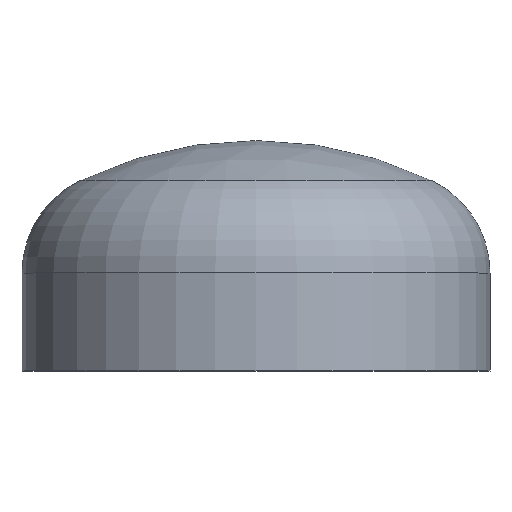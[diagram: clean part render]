
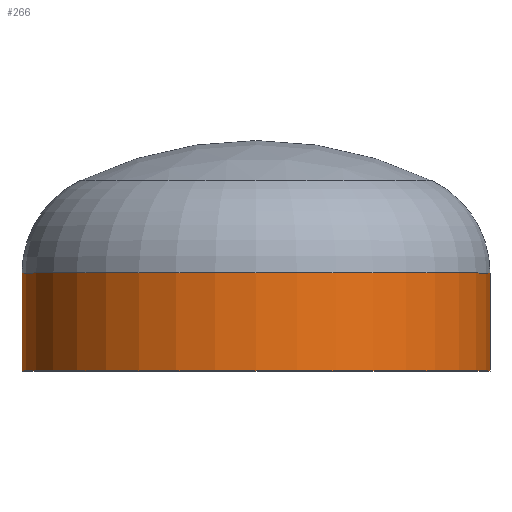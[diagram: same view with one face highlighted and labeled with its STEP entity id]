
A CAD part, top view. The second image highlights one B-rep face of the part: STEP entity #266.
In plain terms, the highlighted cylindrical face has radius 203.2 mm (diameter 406.4 mm), a partial arc.
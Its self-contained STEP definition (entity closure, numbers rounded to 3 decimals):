
#14 = CARTESIAN_POINT ( 'NONE',  ( 0., 0., 0. ) ) ;
#16 = DIRECTION ( 'NONE',  ( 1., 0., 0. ) ) ;
#22 = VERTEX_POINT ( 'NONE', #359 ) ;
#27 = AXIS2_PLACEMENT_3D ( 'NONE', #14, #100, #16 ) ;
#46 = VERTEX_POINT ( 'NONE', #290 ) ;
#50 = AXIS2_PLACEMENT_3D ( 'NONE', #308, #297, #295 ) ;
#53 = AXIS2_PLACEMENT_3D ( 'NONE', #353, #352, #94 ) ;
#68 = ORIENTED_EDGE ( 'NONE', *, *, #69, .F. ) ;
#69 = EDGE_CURVE ( 'NONE', #46, #22, #246, .T. ) ;
#73 = ORIENTED_EDGE ( 'NONE', *, *, #77, .T. ) ;
#75 = EDGE_CURVE ( 'NONE', #22, #93, #236, .T. ) ;
#77 = EDGE_CURVE ( 'NONE', #46, #129, #171, .T. ) ;
#93 = VERTEX_POINT ( 'NONE', #316 ) ;
#94 = DIRECTION ( 'NONE',  ( 1., 0., 0. ) ) ;
#100 = DIRECTION ( 'NONE',  ( 0., -1., 0. ) ) ;
#120 = ORIENTED_EDGE ( 'NONE', *, *, #75, .F. ) ;
#125 = ORIENTED_EDGE ( 'NONE', *, *, #269, .T. ) ;
#129 = VERTEX_POINT ( 'NONE', #185 ) ;
#153 = EDGE_LOOP ( 'NONE', ( #73, #125, #120, #68 ) ) ;
#171 = CIRCLE ( 'NONE', #50, 203.2 ) ;
#185 = CARTESIAN_POINT ( 'NONE',  ( -203.2, 85., 0. ) ) ;
#215 = CARTESIAN_POINT ( 'NONE',  ( -203.2, 0., 0. ) ) ;
#216 = CYLINDRICAL_SURFACE ( 'NONE', #27, 203.2 ) ;
#217 = CARTESIAN_POINT ( 'NONE',  ( 203.2, 0., 0. ) ) ;
#224 = VECTOR ( 'NONE', #382, 1000. ) ;
#236 = CIRCLE ( 'NONE', #53, 203.2 ) ;
#246 = LINE ( 'NONE', #217, #370 ) ;
#266 = ADVANCED_FACE ( 'NONE', ( #401 ), #216, .T. ) ;
#269 = EDGE_CURVE ( 'NONE', #129, #93, #348, .T. ) ;
#290 = CARTESIAN_POINT ( 'NONE',  ( 203.2, 85., 0. ) ) ;
#295 = DIRECTION ( 'NONE',  ( 1., 0., 0. ) ) ;
#297 = DIRECTION ( 'NONE',  ( 0., -1., 0. ) ) ;
#308 = CARTESIAN_POINT ( 'NONE',  ( 0., 85., 0. ) ) ;
#316 = CARTESIAN_POINT ( 'NONE',  ( -203.2, 0., 0. ) ) ;
#338 = DIRECTION ( 'NONE',  ( 0., -1., 0. ) ) ;
#348 = LINE ( 'NONE', #215, #224 ) ;
#352 = DIRECTION ( 'NONE',  ( 0., -1., 0. ) ) ;
#353 = CARTESIAN_POINT ( 'NONE',  ( 0., 0., 0. ) ) ;
#359 = CARTESIAN_POINT ( 'NONE',  ( 203.2, 0., 0. ) ) ;
#370 = VECTOR ( 'NONE', #338, 1000. ) ;
#382 = DIRECTION ( 'NONE',  ( 0., -1., 0. ) ) ;
#401 = FACE_OUTER_BOUND ( 'NONE', #153, .T. ) ;
